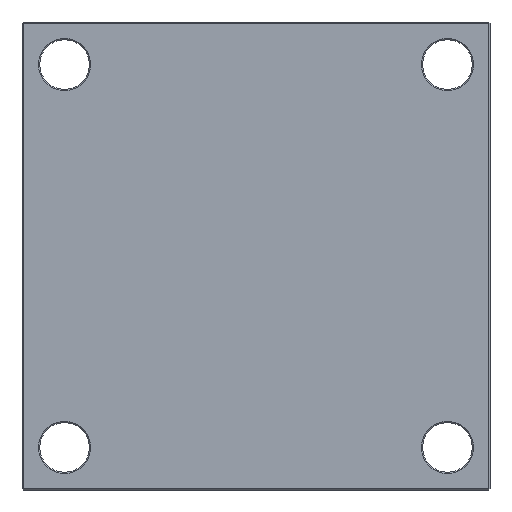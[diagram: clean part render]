
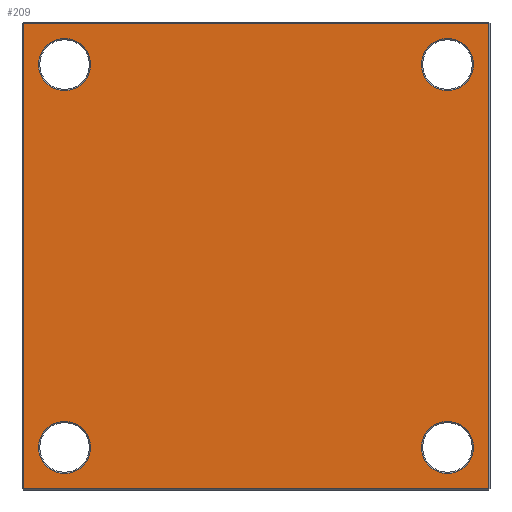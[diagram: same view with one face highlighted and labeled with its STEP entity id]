
A CAD part, front view. The second image highlights one B-rep face of the part: STEP entity #209.
In plain terms, the highlighted planar face has unit normal (0, -1, 0).
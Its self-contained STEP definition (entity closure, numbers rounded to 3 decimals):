
#5 = DIRECTION ( 'NONE',  ( 0., 1., 0. ) ) ;
#14 = CARTESIAN_POINT ( 'NONE',  ( 162., 0., -162. ) ) ;
#41 = AXIS2_PLACEMENT_3D ( 'NONE', #2061, #2053, #2035 ) ;
#65 = VERTEX_POINT ( 'NONE', #674 ) ;
#67 = AXIS2_PLACEMENT_3D ( 'NONE', #321, #1031, #1084 ) ;
#97 = EDGE_LOOP ( 'NONE', ( #1867, #873 ) ) ;
#102 = AXIS2_PLACEMENT_3D ( 'NONE', #1643, #1638, #1502 ) ;
#107 = CARTESIAN_POINT ( 'NONE',  ( -197., 0., 0. ) ) ;
#110 = AXIS2_PLACEMENT_3D ( 'NONE', #14, #635, #600 ) ;
#125 = AXIS2_PLACEMENT_3D ( 'NONE', #1945, #2086, #1010 ) ;
#129 = CIRCLE ( 'NONE', #67, 22. ) ;
#138 = VERTEX_POINT ( 'NONE', #142 ) ;
#141 = AXIS2_PLACEMENT_3D ( 'NONE', #669, #661, #650 ) ;
#142 = CARTESIAN_POINT ( 'NONE',  ( 197., 0., 197. ) ) ;
#149 = CARTESIAN_POINT ( 'NONE',  ( 162., 0., -184. ) ) ;
#166 = AXIS2_PLACEMENT_3D ( 'NONE', #398, #5, #245 ) ;
#178 = AXIS2_PLACEMENT_3D ( 'NONE', #863, #688, #1419 ) ;
#209 = ADVANCED_FACE ( 'NONE', ( #767, #1688, #827, #1241, #1959 ), #537, .F. ) ;
#213 = CARTESIAN_POINT ( 'NONE',  ( 197., 0., 0. ) ) ;
#221 = ORIENTED_EDGE ( 'NONE', *, *, #768, .T. ) ;
#229 = DIRECTION ( 'NONE',  ( 1., 0., 0. ) ) ;
#245 = DIRECTION ( 'NONE',  ( 0., 0., 1. ) ) ;
#256 = VERTEX_POINT ( 'NONE', #1879 ) ;
#321 = CARTESIAN_POINT ( 'NONE',  ( -162., 0., -162. ) ) ;
#335 = VERTEX_POINT ( 'NONE', #149 ) ;
#398 = CARTESIAN_POINT ( 'NONE',  ( -162., 0., 162. ) ) ;
#405 = AXIS2_PLACEMENT_3D ( 'NONE', #1598, #2095, #1801 ) ;
#427 = VERTEX_POINT ( 'NONE', #1590 ) ;
#458 = VECTOR ( 'NONE', #229, 1000. ) ;
#468 = CARTESIAN_POINT ( 'NONE',  ( -197., 0., 197. ) ) ;
#469 = VERTEX_POINT ( 'NONE', #1484 ) ;
#484 = ORIENTED_EDGE ( 'NONE', *, *, #695, .T. ) ;
#537 = PLANE ( 'NONE',  #405 ) ;
#556 = DIRECTION ( 'NONE',  ( 0., 0., 1. ) ) ;
#600 = DIRECTION ( 'NONE',  ( 0., 0., 1. ) ) ;
#635 = DIRECTION ( 'NONE',  ( 0., 1., 0. ) ) ;
#650 = DIRECTION ( 'NONE',  ( 0., 0., 1. ) ) ;
#658 = DIRECTION ( 'NONE',  ( -1., 0., 0. ) ) ;
#661 = DIRECTION ( 'NONE',  ( 0., 1., 0. ) ) ;
#669 = CARTESIAN_POINT ( 'NONE',  ( 162., 0., 162. ) ) ;
#674 = CARTESIAN_POINT ( 'NONE',  ( -162., 0., -184. ) ) ;
#677 = ORIENTED_EDGE ( 'NONE', *, *, #719, .T. ) ;
#678 = VERTEX_POINT ( 'NONE', #1169 ) ;
#685 = EDGE_LOOP ( 'NONE', ( #677, #1517, #1662, #484 ) ) ;
#688 = DIRECTION ( 'NONE',  ( 0., 1., 0. ) ) ;
#695 = EDGE_CURVE ( 'NONE', #427, #1218, #1074, .T. ) ;
#700 = EDGE_CURVE ( 'NONE', #968, #427, #1793, .T. ) ;
#709 = CARTESIAN_POINT ( 'NONE',  ( 0., 0., 197. ) ) ;
#714 = EDGE_CURVE ( 'NONE', #138, #968, #2117, .T. ) ;
#719 = EDGE_CURVE ( 'NONE', #1218, #138, #973, .T. ) ;
#736 = EDGE_CURVE ( 'NONE', #469, #1151, #2076, .T. ) ;
#743 = EDGE_CURVE ( 'NONE', #1318, #256, #2025, .T. ) ;
#764 = EDGE_CURVE ( 'NONE', #678, #335, #1984, .T. ) ;
#766 = EDGE_LOOP ( 'NONE', ( #1453, #1159 ) ) ;
#767 = FACE_BOUND ( 'NONE', #1602, .T. ) ;
#768 = EDGE_CURVE ( 'NONE', #1350, #65, #794, .T. ) ;
#794 = CIRCLE ( 'NONE', #102, 22. ) ;
#815 = EDGE_CURVE ( 'NONE', #65, #1350, #129, .T. ) ;
#827 = FACE_BOUND ( 'NONE', #97, .T. ) ;
#860 = EDGE_CURVE ( 'NONE', #335, #678, #2143, .T. ) ;
#863 = CARTESIAN_POINT ( 'NONE',  ( 162., 0., 162. ) ) ;
#873 = ORIENTED_EDGE ( 'NONE', *, *, #743, .T. ) ;
#879 = DIRECTION ( 'NONE',  ( 0., 0., -1. ) ) ;
#910 = VECTOR ( 'NONE', #658, 1000. ) ;
#930 = CARTESIAN_POINT ( 'NONE',  ( -162., 0., 140. ) ) ;
#933 = CARTESIAN_POINT ( 'NONE',  ( 0., 0., -197. ) ) ;
#951 = ORIENTED_EDGE ( 'NONE', *, *, #964, .T. ) ;
#956 = CARTESIAN_POINT ( 'NONE',  ( 197., 0., -197. ) ) ;
#964 = EDGE_CURVE ( 'NONE', #1151, #469, #1470, .T. ) ;
#968 = VERTEX_POINT ( 'NONE', #468 ) ;
#973 = LINE ( 'NONE', #213, #1709 ) ;
#986 = EDGE_CURVE ( 'NONE', #256, #1318, #2116, .T. ) ;
#1010 = DIRECTION ( 'NONE',  ( 0., 0., 1. ) ) ;
#1031 = DIRECTION ( 'NONE',  ( 0., 1., 0. ) ) ;
#1074 = LINE ( 'NONE', #933, #458 ) ;
#1084 = DIRECTION ( 'NONE',  ( 0., 0., 1. ) ) ;
#1092 = CARTESIAN_POINT ( 'NONE',  ( 162., 0., 184. ) ) ;
#1151 = VERTEX_POINT ( 'NONE', #930 ) ;
#1159 = ORIENTED_EDGE ( 'NONE', *, *, #764, .T. ) ;
#1169 = CARTESIAN_POINT ( 'NONE',  ( 162., 0., -140. ) ) ;
#1195 = ORIENTED_EDGE ( 'NONE', *, *, #815, .T. ) ;
#1214 = CARTESIAN_POINT ( 'NONE',  ( -162., 0., -140. ) ) ;
#1218 = VERTEX_POINT ( 'NONE', #956 ) ;
#1241 = FACE_BOUND ( 'NONE', #1560, .T. ) ;
#1250 = ORIENTED_EDGE ( 'NONE', *, *, #736, .T. ) ;
#1318 = VERTEX_POINT ( 'NONE', #1092 ) ;
#1350 = VERTEX_POINT ( 'NONE', #1214 ) ;
#1419 = DIRECTION ( 'NONE',  ( 0., 0., 1. ) ) ;
#1453 = ORIENTED_EDGE ( 'NONE', *, *, #860, .T. ) ;
#1470 = CIRCLE ( 'NONE', #125, 22. ) ;
#1484 = CARTESIAN_POINT ( 'NONE',  ( -162., 0., 184. ) ) ;
#1502 = DIRECTION ( 'NONE',  ( 0., 0., 1. ) ) ;
#1517 = ORIENTED_EDGE ( 'NONE', *, *, #714, .T. ) ;
#1560 = EDGE_LOOP ( 'NONE', ( #951, #1250 ) ) ;
#1590 = CARTESIAN_POINT ( 'NONE',  ( -197., 0., -197. ) ) ;
#1598 = CARTESIAN_POINT ( 'NONE',  ( 0., 0., 0. ) ) ;
#1602 = EDGE_LOOP ( 'NONE', ( #1195, #221 ) ) ;
#1638 = DIRECTION ( 'NONE',  ( 0., 1., 0. ) ) ;
#1643 = CARTESIAN_POINT ( 'NONE',  ( -162., 0., -162. ) ) ;
#1662 = ORIENTED_EDGE ( 'NONE', *, *, #700, .T. ) ;
#1688 = FACE_BOUND ( 'NONE', #766, .T. ) ;
#1709 = VECTOR ( 'NONE', #556, 1000. ) ;
#1755 = VECTOR ( 'NONE', #879, 1000. ) ;
#1793 = LINE ( 'NONE', #107, #1755 ) ;
#1801 = DIRECTION ( 'NONE',  ( 0., 0., 1. ) ) ;
#1867 = ORIENTED_EDGE ( 'NONE', *, *, #986, .T. ) ;
#1879 = CARTESIAN_POINT ( 'NONE',  ( 162., 0., 140. ) ) ;
#1945 = CARTESIAN_POINT ( 'NONE',  ( -162., 0., 162. ) ) ;
#1959 = FACE_OUTER_BOUND ( 'NONE', #685, .T. ) ;
#1984 = CIRCLE ( 'NONE', #110, 22. ) ;
#2025 = CIRCLE ( 'NONE', #141, 22. ) ;
#2035 = DIRECTION ( 'NONE',  ( 0., 0., 1. ) ) ;
#2053 = DIRECTION ( 'NONE',  ( 0., 1., 0. ) ) ;
#2061 = CARTESIAN_POINT ( 'NONE',  ( 162., 0., -162. ) ) ;
#2076 = CIRCLE ( 'NONE', #166, 22. ) ;
#2086 = DIRECTION ( 'NONE',  ( 0., 1., 0. ) ) ;
#2095 = DIRECTION ( 'NONE',  ( 0., 1., 0. ) ) ;
#2116 = CIRCLE ( 'NONE', #178, 22. ) ;
#2117 = LINE ( 'NONE', #709, #910 ) ;
#2143 = CIRCLE ( 'NONE', #41, 22. ) ;
